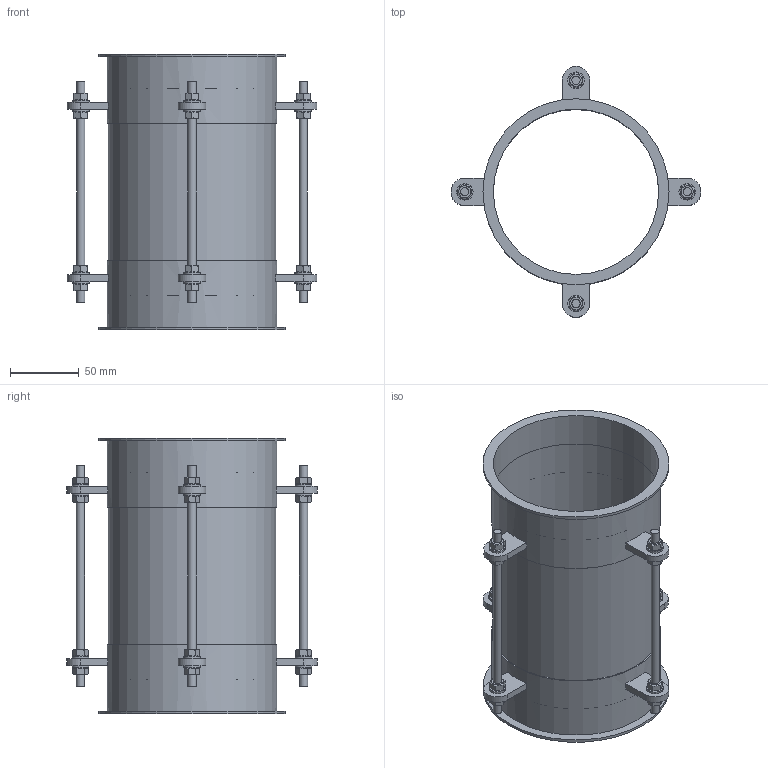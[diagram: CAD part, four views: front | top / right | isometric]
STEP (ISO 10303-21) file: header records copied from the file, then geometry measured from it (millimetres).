
FILE_DESCRIPTION((''),'2;1');
FILE_NAME('U:\Wolfgang\Marcel-3D\fertig\Kapitel 4\1211042.stp','2011-04-21T08:28:53',('TK1'),(''),'Autodesk Inventor 2010','Autodesk Inventor 2010','');
FILE_SCHEMA(('AUTOMOTIVE_DESIGN { 1 0 10303 214 1 1 1 1 }'));
Length unit declared in the file: millimetre
Products named in the file (6): 1211042; 1211042-1; 1211042-2; 1011042-3; ISO 4032 M6; ISO 7089 6 - 140 HV
Assembly tree (39 placements, depth 2):
  1211042
    1211042-1  x2
    1211042-2
    1011042-3  x4
    ISO 4032 M6  x16
    ISO 7089 6 - 140 HV  x16
Bounding box: 181.36 x 182 x 200 mm (x, y, z)
Volume: 141811.7 mm3; surface area: 236612.1 mm2
Topology: 39 solids, 39 shells, 366 faces, 788 edges, 510 vertices
Faces by surface type: plane 224, cone 64, cylinder 62, bspline 16
Full cylindrical faces by diameter (mm): 6 x12, 6.4 x16, 12 x16, 120 x3, 121.5 x3, 123 x2, 135 x2
Entity records: 2107 total; most frequent: DIRECTION 368, CARTESIAN_POINT 353, ORIENTED_EDGE 232, AXIS2_PLACEMENT_3D 157, EDGE_CURVE 116, EDGE_LOOP 104, VERTEX_POINT 88, FACE_OUTER_BOUND 63
